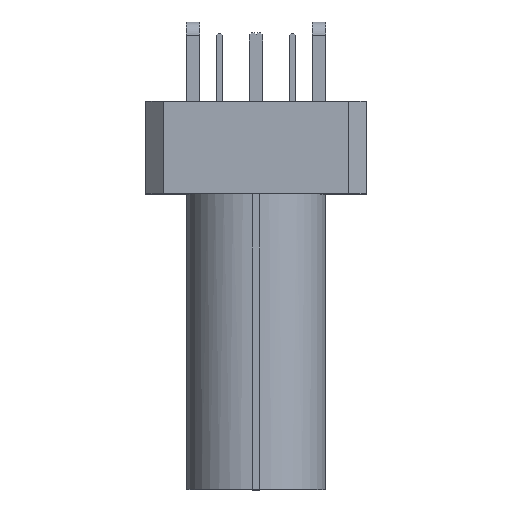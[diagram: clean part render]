
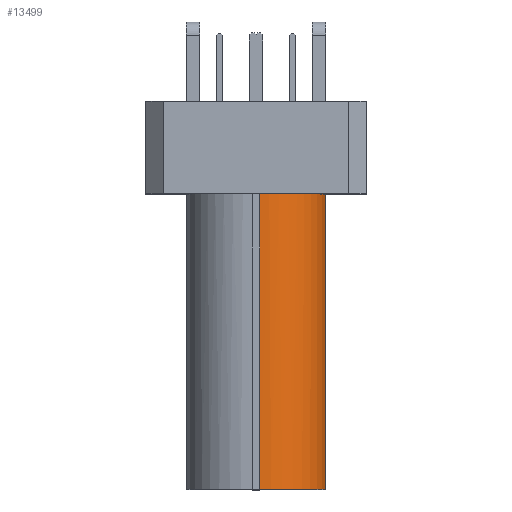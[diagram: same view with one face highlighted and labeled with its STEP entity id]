
A CAD part, top view. The second image highlights one B-rep face of the part: STEP entity #13499.
In plain terms, the highlighted cylindrical face has radius 1.5 mm (diameter 3 mm), a partial arc.
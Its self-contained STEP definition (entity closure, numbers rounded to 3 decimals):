
#516 = DIRECTION ( 'NONE',  ( 0., 1., 0. ) ) ;
#709 = DIRECTION ( 'NONE',  ( 0.78, 0., 0.626 ) ) ;
#720 = DIRECTION ( 'NONE',  ( 1., 0., 0. ) ) ;
#1031 = ORIENTED_EDGE ( 'NONE', *, *, #13153, .T. ) ;
#1312 = ORIENTED_EDGE ( 'NONE', *, *, #7583, .T. ) ;
#1837 = DIRECTION ( 'NONE',  ( 0., -1., 0. ) ) ;
#1878 = LINE ( 'NONE', #4107, #5943 ) ;
#1972 = DIRECTION ( 'NONE',  ( 0., -1., 0. ) ) ;
#2590 = EDGE_CURVE ( 'NONE', #12867, #6099, #12315, .T. ) ;
#2682 = DIRECTION ( 'NONE',  ( 0., 0., 1. ) ) ;
#2798 = FACE_OUTER_BOUND ( 'NONE', #5527, .T. ) ;
#2956 = DIRECTION ( 'NONE',  ( 0., -1., 0. ) ) ;
#3151 = VECTOR ( 'NONE', #1972, 1000. ) ;
#3776 = EDGE_CURVE ( 'NONE', #13743, #9337, #1878, .T. ) ;
#3979 = DIRECTION ( 'NONE',  ( 0., -1., 0. ) ) ;
#4107 = CARTESIAN_POINT ( 'NONE',  ( 1.58, 2.3, 2.97 ) ) ;
#4495 = AXIS2_PLACEMENT_3D ( 'NONE', #11241, #5026, #11315 ) ;
#4745 = CARTESIAN_POINT ( 'NONE',  ( 1.58, 2.3, 2.97 ) ) ;
#5026 = DIRECTION ( 'NONE',  ( 0., -1., 0. ) ) ;
#5185 = CARTESIAN_POINT ( 'NONE',  ( 0.08, -4.4, 4.47 ) ) ;
#5527 = EDGE_LOOP ( 'NONE', ( #1031, #1312, #9353, #10796, #12865 ) ) ;
#5943 = VECTOR ( 'NONE', #3979, 1000. ) ;
#6023 = CARTESIAN_POINT ( 'NONE',  ( 0.08, 2.3, 2.97 ) ) ;
#6099 = VERTEX_POINT ( 'NONE', #7232 ) ;
#6395 = CARTESIAN_POINT ( 'NONE',  ( 1.25, 2.3, 3.909 ) ) ;
#6982 = CYLINDRICAL_SURFACE ( 'NONE', #4495, 1.5 ) ;
#7061 = CARTESIAN_POINT ( 'NONE',  ( 1.58, -4.4, 2.97 ) ) ;
#7232 = CARTESIAN_POINT ( 'NONE',  ( 0.08, 2.3, 4.47 ) ) ;
#7407 = AXIS2_PLACEMENT_3D ( 'NONE', #6023, #1837, #709 ) ;
#7505 = AXIS2_PLACEMENT_3D ( 'NONE', #7977, #516, #2682 ) ;
#7583 = EDGE_CURVE ( 'NONE', #13052, #9337, #11068, .T. ) ;
#7805 = AXIS2_PLACEMENT_3D ( 'NONE', #12510, #2956, #720 ) ;
#7977 = CARTESIAN_POINT ( 'NONE',  ( 0.08, -4.4, 2.97 ) ) ;
#8184 = LINE ( 'NONE', #9369, #3151 ) ;
#9337 = VERTEX_POINT ( 'NONE', #7061 ) ;
#9353 = ORIENTED_EDGE ( 'NONE', *, *, #3776, .F. ) ;
#9369 = CARTESIAN_POINT ( 'NONE',  ( 0.08, 2.3, 4.47 ) ) ;
#10796 = ORIENTED_EDGE ( 'NONE', *, *, #11878, .T. ) ;
#11068 = CIRCLE ( 'NONE', #7505, 1.5 ) ;
#11241 = CARTESIAN_POINT ( 'NONE',  ( 0.08, 2.458, 2.97 ) ) ;
#11315 = DIRECTION ( 'NONE',  ( 0., 0., 1. ) ) ;
#11878 = EDGE_CURVE ( 'NONE', #13743, #12867, #12942, .T. ) ;
#12315 = CIRCLE ( 'NONE', #7407, 1.5 ) ;
#12510 = CARTESIAN_POINT ( 'NONE',  ( 0.08, 2.3, 2.97 ) ) ;
#12865 = ORIENTED_EDGE ( 'NONE', *, *, #2590, .T. ) ;
#12867 = VERTEX_POINT ( 'NONE', #6395 ) ;
#12942 = CIRCLE ( 'NONE', #7805, 1.5 ) ;
#13052 = VERTEX_POINT ( 'NONE', #5185 ) ;
#13153 = EDGE_CURVE ( 'NONE', #6099, #13052, #8184, .T. ) ;
#13499 = ADVANCED_FACE ( 'NONE', ( #2798 ), #6982, .T. ) ;
#13743 = VERTEX_POINT ( 'NONE', #4745 ) ;
